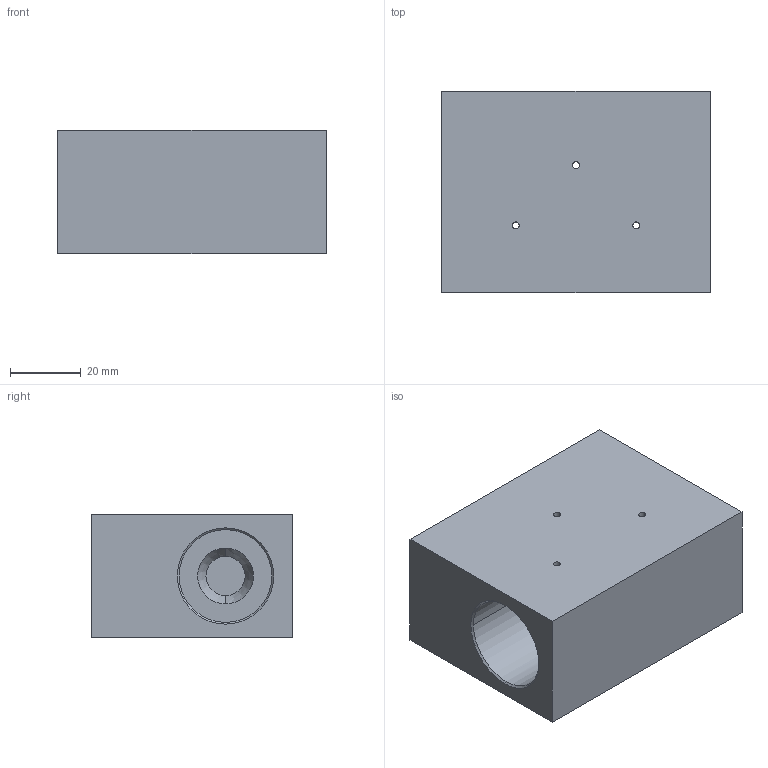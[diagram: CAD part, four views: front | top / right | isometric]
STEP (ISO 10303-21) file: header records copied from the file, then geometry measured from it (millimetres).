
FILE_DESCRIPTION (( 'STEP AP203' ), '1' );
FILE_NAME ('FT20TS12.STEP', '2026-06-26T01:24:07', ( 'USER' ), ( '' ), 'SwSTEP 2.0', 'SolidWorks 2023', '' );
FILE_SCHEMA (( 'CONFIG_CONTROL_DESIGN' ));
Length unit declared in the file: millimetre
Products named in the file (1): FT20TS12
Bounding box: 76 x 57 x 35 mm (x, y, z)
Volume: 109620 mm3; surface area: 24707.7 mm2
Topology: 1 solids, 1 shells, 48 faces, 118 edges, 76 vertices
Faces by surface type: cylinder 24, cone 12, plane 12
Entity records: 1695 total; most frequent: CARTESIAN_POINT 439, DIRECTION 252, ORIENTED_EDGE 236, EDGE_CURVE 118, AXIS2_PLACEMENT_3D 101, VERTEX_POINT 76, EDGE_LOOP 64, CIRCLE 52
